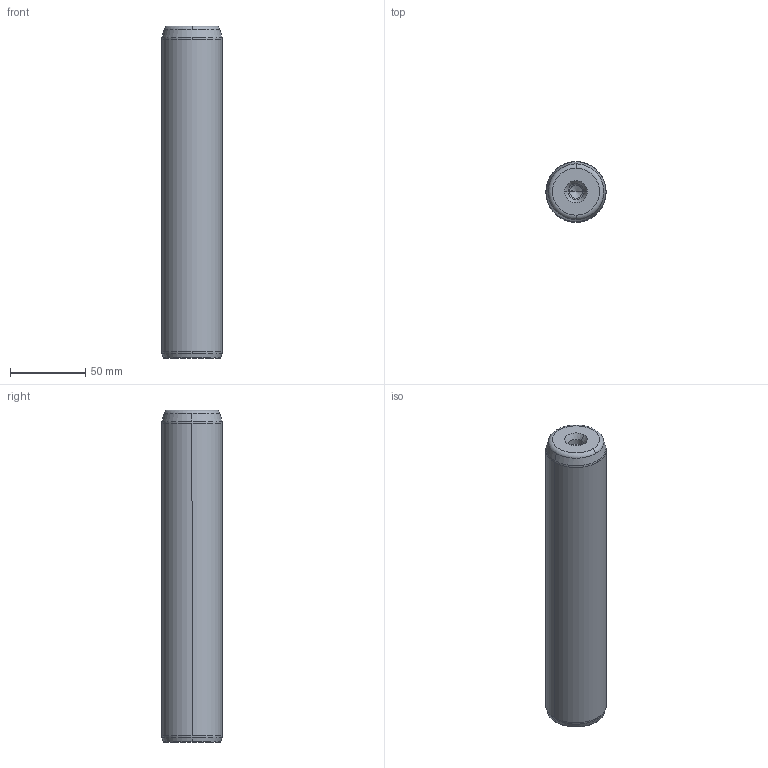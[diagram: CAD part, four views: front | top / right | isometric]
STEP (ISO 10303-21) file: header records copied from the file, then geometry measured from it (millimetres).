
FILE_DESCRIPTION((''),'2;1');
FILE_NAME('P10_040_220.stp','2008-12-23T15:24:21',(''),(''),'Mechanical Desktop 2009','Mechanical Desktop 2009',', , ');
FILE_SCHEMA(('CONFIG_CONTROL_DESIGN'));
Length unit declared in the file: millimetre
Products named in the file (5): Product; ProductAA; blmdl1; ProductA; blmdl1A
Assembly tree (2 placements, depth 3):
  Product
    ProductAA
      blmdl1
  ProductA
  blmdl1A
Bounding box: 40 x 40 x 220 mm (x, y, z)
Volume: 272956.1 mm3; surface area: 30489.8 mm2
Topology: 1 solids, 1 shells, 26 faces, 66 edges, 41 vertices
Faces by surface type: cone 10, torus 8, cylinder 6, plane 2
Entity records: 1012 total; most frequent: DIRECTION 170, CARTESIAN_POINT 134, ORIENTED_EDGE 128, AXIS2_PLACEMENT_3D 77, EDGE_CURVE 64, CIRCLE 48, VERTEX_POINT 41, EDGE_LOOP 27
